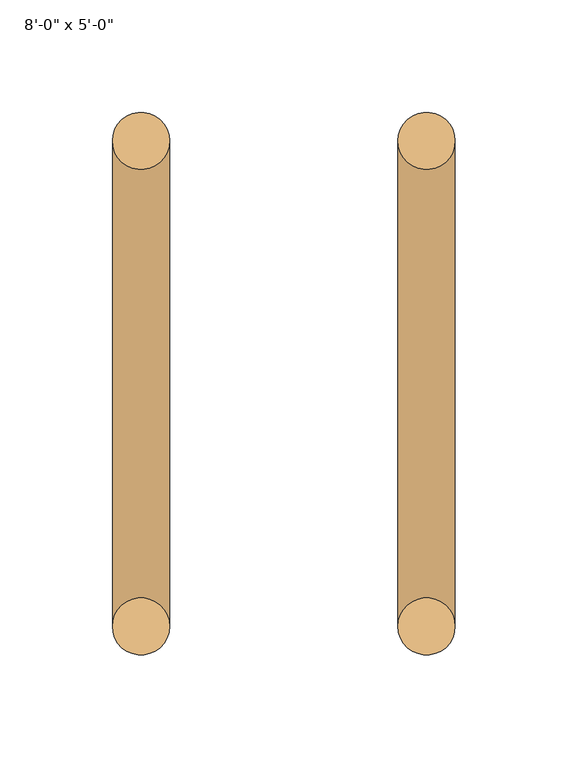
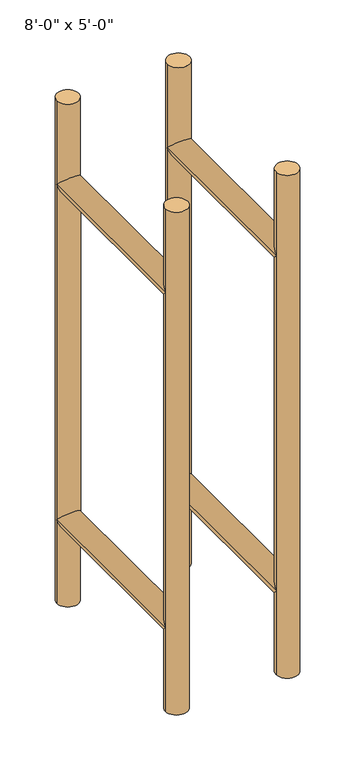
"""IFC4 building model written with IfcOpenShell, lengths in millimetres: door geometry."""

from ifc_helpers import new_model, si_unit, frame, origin, place, context, project, spatial, circle_curve, ellipse_curve, source, transform, mapped, element, save
from ifc_brep_helpers import plane_surface, cylinder_surface, advanced_brep


def door_d809778b(model_context):
    return source(origin(), model_context, "Body", "AdvancedBrep", [
        advanced_brep(
        [(-685.8, 133.35, 1219.2), (-660.4, 133.35, 1219.2), (-660.4, -82.55, 1219.2), (-685.8, -82.55, 1219.2), (-685.8, 133.35, 812.8), (-660.4, 133.35, 812.8), (-660.4, -82.55, 812.8), (-685.8, -82.55, 812.8), (-660.4, 133.35, 1320.8), (-685.8, 133.35, 1320.8), (-660.4, -82.55, 1320.8), (-685.8, -82.55, 1320.8), (-660.4, 133.35, 711.2), (-685.8, 133.35, 711.2), (-660.4, -82.55, 711.2), (-685.8, -82.55, 711.2)],
        [
            (0, 1, ellipse_curve(frame((-673.1, 133.35, 1219.2), z_axis=(0.0, -0.7071067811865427, 0.7071067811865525), x_axis=(0.0, 0.7071067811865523, 0.7071067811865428)), 17.9605122, 12.7)),
            (1, 2),
            (2, 3, ellipse_curve(frame((-673.1, -82.55, 1219.2), z_axis=(0.0, 0.7071067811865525, 0.7071067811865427), x_axis=(0.0, 0.7071067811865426, -0.7071067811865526)), 17.9605122, 12.7)),
            (3, 0),
            (3, 2, ellipse_curve(frame((-673.1, -82.55, 1219.2), z_axis=(0.0, 0.7071067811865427, -0.7071067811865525), x_axis=(0.0, 0.7071067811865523, 0.7071067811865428)), 17.9605122, 12.7)),
            (1, 0, ellipse_curve(frame((-673.1, 133.35, 1219.2), z_axis=(0.0, -0.7071067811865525, -0.7071067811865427), x_axis=(0.0, 0.7071067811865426, -0.7071067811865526)), 17.9605122, 12.7)),
            (4, 5, ellipse_curve(frame((-673.1, 133.35, 812.8), z_axis=(0.0, -0.7071067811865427, 0.7071067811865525), x_axis=(0.0, 0.7071067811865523, 0.7071067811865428)), 17.9605122, 12.7)),
            (5, 6),
            (6, 7, ellipse_curve(frame((-673.1, -82.55, 812.8), z_axis=(0.0, 0.7071067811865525, 0.7071067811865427), x_axis=(0.0, 0.7071067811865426, -0.7071067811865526)), 17.9605122, 12.7)),
            (7, 4),
            (7, 6, ellipse_curve(frame((-673.1, -82.55, 812.8), z_axis=(0.0, 0.7071067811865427, -0.7071067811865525), x_axis=(0.0, 0.7071067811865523, 0.7071067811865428)), 17.9605122, 12.7)),
            (5, 4, ellipse_curve(frame((-673.1, 133.35, 812.8), z_axis=(0.0, -0.7071067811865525, -0.7071067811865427), x_axis=(0.0, 0.7071067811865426, -0.7071067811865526)), 17.9605122, 12.7)),
            (8, 9, circle_curve(frame((-673.1, 133.35, 1320.8), z_axis=(0.0, 0.0, 1.0), x_axis=(-1.0, 0.0, 0.0)), 12.7)),
            (9, 8, circle_curve(frame((-673.1, 133.35, 1320.8), z_axis=(0.0, 0.0, 1.0), x_axis=(-1.0, 0.0, 0.0)), 12.7)),
            (10, 11, circle_curve(frame((-673.1, -82.55, 1320.8), z_axis=(0.0, 0.0, 1.0), x_axis=(-1.0, 0.0, 0.0)), 12.7)),
            (11, 10, circle_curve(frame((-673.1, -82.55, 1320.8), z_axis=(0.0, 0.0, 1.0), x_axis=(-1.0, 0.0, 0.0)), 12.7)),
            (12, 13, circle_curve(frame((-673.1, 133.35, 711.2), z_axis=(0.0, 0.0, -1.0), x_axis=(-1.0, 0.0, 0.0)), 12.7)),
            (13, 12, circle_curve(frame((-673.1, 133.35, 711.2), z_axis=(0.0, 0.0, -1.0), x_axis=(-1.0, 0.0, 0.0)), 12.7)),
            (14, 15, circle_curve(frame((-673.1, -82.55, 711.2), z_axis=(0.0, 0.0, -1.0), x_axis=(-1.0, 0.0, 0.0)), 12.7)),
            (15, 14, circle_curve(frame((-673.1, -82.55, 711.2), z_axis=(0.0, 0.0, -1.0), x_axis=(-1.0, 0.0, 0.0)), 12.7)),
            (8, 1),
            (1, 5),
            (5, 12),
            (13, 4),
            (4, 0),
            (0, 9),
            (7, 3),
            (2, 6),
            (15, 7),
            (6, 14),
            (10, 2),
            (3, 11),
        ],
        [
            cylinder_surface(frame((-673.1, -82.55, 1219.2), z_axis=(0.0, 1.0, 0.0), x_axis=(-1.0, 0.0, 0.0)), 12.7),
            cylinder_surface(frame((-673.1, 0.0, 812.8), z_axis=(0.0, 1.0, 0.0), x_axis=(-1.0, 0.0, 0.0)), 12.7),
            plane_surface(frame((-685.8, 133.35, 1320.8), z_axis=(0.0, 0.0, 1.0), x_axis=(0.0, 1.0, 0.0))),
            plane_surface(frame((-685.8, 133.35, 711.2), z_axis=(0.0, 0.0, -1.0), x_axis=(0.0, -1.0, 0.0))),
            cylinder_surface(frame((-673.1, 133.35, 711.2), z_axis=(0.0, 0.0, 1.0), x_axis=(-1.0, 0.0, 0.0)), 12.7),
            cylinder_surface(frame((-673.1, -82.55, 0.0), z_axis=(0.0, 0.0, 1.0), x_axis=(-1.0, 0.0, 0.0)), 12.7),
        ],
        [
            (0, [[1, 2, 3, 4]]),
            (0, [[5, -2, 6, -4]]),
            (1, [[7, 8, 9, 10]]),
            (1, [[11, -8, 12, -10]]),
            (2, [[13, 14]]),
            (2, [[15, 16]]),
            (3, [[17, 18]]),
            (3, [[19, 20]]),
            (4, [[21, 22, 23, -18, 24, 25, 26, -13]]),
            (4, [[-12, -22, -1, -25]]),
            (4, [[-26, -6, -21, -14]]),
            (4, [[-23, -7, -24, -17]]),
            (5, [[-11, 27, -3, 28]]),
            (5, [[29, -9, 30, -20]]),
            (5, [[31, -5, 32, -15]]),
            (5, [[-32, -27, -29, -19, -30, -28, -31, -16]]),
        ],
    ),
        advanced_brep(
        [(-533.4, 133.35, 1219.2), (-533.4, -82.55, 1219.2), (-558.8, -82.55, 1219.2), (-558.8, 133.35, 1219.2), (-533.4, 133.35, 812.8), (-533.4, -82.55, 812.8), (-558.8, -82.55, 812.8), (-558.8, 133.35, 812.8), (-558.8, 133.35, 1320.8), (-533.4, 133.35, 1320.8), (-558.8, -82.55, 1320.8), (-533.4, -82.55, 1320.8), (-558.8, 133.35, 711.2), (-533.4, 133.35, 711.2), (-558.8, -82.55, 711.2), (-533.4, -82.55, 711.2)],
        [
            (0, 1),
            (1, 2, ellipse_curve(frame((-546.1, -82.55, 1219.2), z_axis=(0.0, 0.7071067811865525, 0.7071067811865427), x_axis=(0.0, 0.7071067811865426, -0.7071067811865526)), 17.9605122, 12.7)),
            (2, 3),
            (3, 0, ellipse_curve(frame((-546.1, 133.35, 1219.2), z_axis=(0.0, -0.7071067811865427, 0.7071067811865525), x_axis=(0.0, 0.7071067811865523, 0.7071067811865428)), 17.9605122, 12.7)),
            (0, 3, ellipse_curve(frame((-546.1, 133.35, 1219.2), z_axis=(0.0, -0.7071067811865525, -0.7071067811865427), x_axis=(0.0, 0.7071067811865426, -0.7071067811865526)), 17.9605122, 12.7)),
            (2, 1, ellipse_curve(frame((-546.1, -82.55, 1219.2), z_axis=(0.0, 0.7071067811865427, -0.7071067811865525), x_axis=(0.0, 0.7071067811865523, 0.7071067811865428)), 17.9605122, 12.7)),
            (4, 5),
            (5, 6, ellipse_curve(frame((-546.1, -82.55, 812.8), z_axis=(0.0, 0.7071067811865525, 0.7071067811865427), x_axis=(0.0, 0.7071067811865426, -0.7071067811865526)), 17.9605122, 12.7)),
            (6, 7),
            (7, 4, ellipse_curve(frame((-546.1, 133.35, 812.8), z_axis=(0.0, -0.7071067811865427, 0.7071067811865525), x_axis=(0.0, 0.7071067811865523, 0.7071067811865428)), 17.9605122, 12.7)),
            (4, 7, ellipse_curve(frame((-546.1, 133.35, 812.8), z_axis=(0.0, -0.7071067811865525, -0.7071067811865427), x_axis=(0.0, 0.7071067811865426, -0.7071067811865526)), 17.9605122, 12.7)),
            (6, 5, ellipse_curve(frame((-546.1, -82.55, 812.8), z_axis=(0.0, 0.7071067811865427, -0.7071067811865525), x_axis=(0.0, 0.7071067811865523, 0.7071067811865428)), 17.9605122, 12.7)),
            (8, 9, circle_curve(frame((-546.1, 133.35, 1320.8), z_axis=(0.0, 0.0, 1.0), x_axis=(1.0, 0.0, 0.0)), 12.7)),
            (9, 8, circle_curve(frame((-546.1, 133.35, 1320.8), z_axis=(0.0, 0.0, 1.0), x_axis=(1.0, 0.0, 0.0)), 12.7)),
            (10, 11, circle_curve(frame((-546.1, -82.55, 1320.8), z_axis=(0.0, 0.0, 1.0), x_axis=(1.0, 0.0, 0.0)), 12.7)),
            (11, 10, circle_curve(frame((-546.1, -82.55, 1320.8), z_axis=(0.0, 0.0, 1.0), x_axis=(1.0, 0.0, 0.0)), 12.7)),
            (12, 13, circle_curve(frame((-546.1, 133.35, 711.2), z_axis=(0.0, 0.0, -1.0), x_axis=(1.0, 0.0, 0.0)), 12.7)),
            (13, 12, circle_curve(frame((-546.1, 133.35, 711.2), z_axis=(0.0, 0.0, -1.0), x_axis=(1.0, 0.0, 0.0)), 12.7)),
            (14, 15, circle_curve(frame((-546.1, -82.55, 711.2), z_axis=(0.0, 0.0, -1.0), x_axis=(1.0, 0.0, 0.0)), 12.7)),
            (15, 14, circle_curve(frame((-546.1, -82.55, 711.2), z_axis=(0.0, 0.0, -1.0), x_axis=(1.0, 0.0, 0.0)), 12.7)),
            (9, 0),
            (0, 4),
            (4, 13),
            (12, 7),
            (7, 3),
            (3, 8),
            (11, 1),
            (2, 10),
            (14, 6),
            (5, 15),
            (6, 2),
            (1, 5),
        ],
        [
            cylinder_surface(frame((-546.1, -82.55, 1219.2), z_axis=(0.0, 1.0, 0.0), x_axis=(1.0, 0.0, 0.0)), 12.7),
            cylinder_surface(frame((-546.1, 0.0, 812.8), z_axis=(0.0, 1.0, 0.0), x_axis=(1.0, 0.0, 0.0)), 12.7),
            plane_surface(frame((-533.4, 133.35, 1320.8), z_axis=(0.0, 0.0, 1.0), x_axis=(0.0, 1.0, 0.0))),
            plane_surface(frame((-533.4, 133.35, 711.2), z_axis=(0.0, 0.0, -1.0), x_axis=(0.0, -1.0, 0.0))),
            cylinder_surface(frame((-546.1, 133.35, 711.2), z_axis=(0.0, 0.0, 1.0), x_axis=(1.0, 0.0, 0.0)), 12.7),
            cylinder_surface(frame((-546.1, -82.55, 0.0), z_axis=(0.0, 0.0, 1.0), x_axis=(1.0, 0.0, 0.0)), 12.7),
        ],
        [
            (0, [[1, 2, 3, 4]]),
            (0, [[-1, 5, -3, 6]]),
            (1, [[7, 8, 9, 10]]),
            (1, [[-7, 11, -9, 12]]),
            (2, [[13, 14]]),
            (2, [[15, 16]]),
            (3, [[17, 18]]),
            (3, [[19, 20]]),
            (4, [[-14, 21, 22, 23, -17, 24, 25, 26]]),
            (4, [[-13, -26, -5, -21]]),
            (4, [[-18, -23, -10, -24]]),
            (4, [[-22, -4, -25, -11]]),
            (5, [[-16, 27, -6, 28]]),
            (5, [[-19, 29, -8, 30]]),
            (5, [[31, -2, 32, -12]]),
            (5, [[-15, -28, -31, -29, -20, -30, -32, -27]]),
        ],
    ),
    ])


if __name__ == "__main__":
    model = new_model("IFC4")
    model_context = context("Model", 3, world=origin())
    ifc_project = project(units=[si_unit("LENGTHUNIT", "METRE", prefix="MILLI")], contexts=[model_context])
    site = spatial("IfcSite", under=ifc_project)
    building = spatial("IfcBuilding", under=site)
    placement = place(None, origin())
    door_shape = door_d809778b(model_context)
    element("IfcDoor", 1, ObjectType="Planitar -Double Door_Swapper : 8'-0\" x 5'-0\"", at=placement, inside=building, context=model_context, shape_type="MappedRepresentation", body=[
        mapped(door_shape, transform((0.0, 0.0, 0.0), x_axis=(1.0, 0.0, 0.0), y_axis=(0.0, 1.0, 0.0), z_axis=(0.0, 0.0, 1.0))),
    ])
    save(model, "model.ifc")
